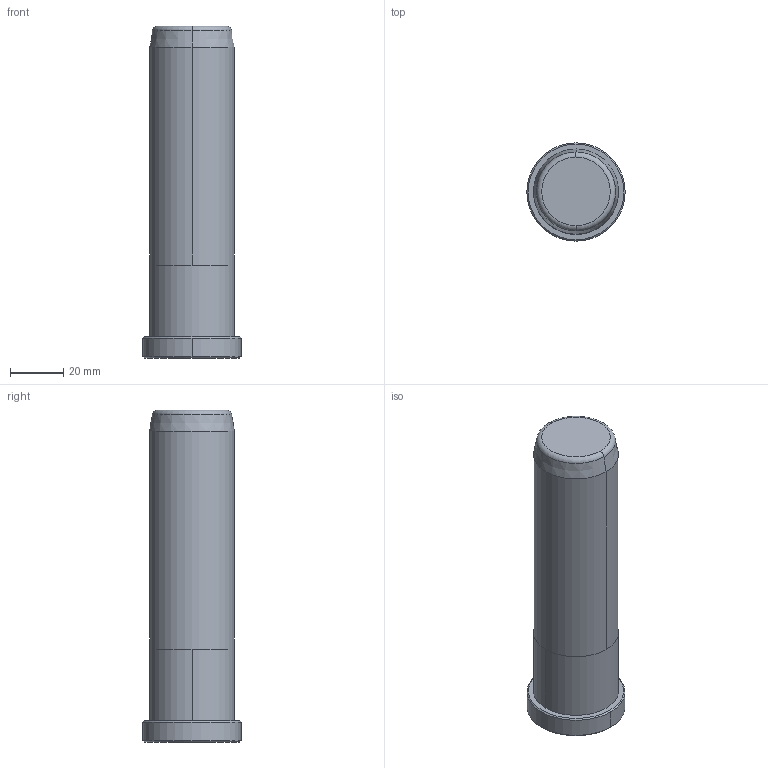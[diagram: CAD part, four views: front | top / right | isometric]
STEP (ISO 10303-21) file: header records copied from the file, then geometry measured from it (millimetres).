
FILE_DESCRIPTION((''),'2;1');
FILE_NAME('B80832125','2018-01-06T',('MANU'),(''),'PRO/ENGINEER BY PARAMETRIC TECHNOLOGY CORPORATION, 2012130','PRO/ENGINEER BY PARAMETRIC TECHNOLOGY CORPORATION, 2012130','');
FILE_SCHEMA(('CONFIG_CONTROL_DESIGN'));
Length unit declared in the file: millimetre
Products named in the file (1): B80832125
Bounding box: 37 x 37 x 125 mm (x, y, z)
Volume: 102095.8 mm3; surface area: 14563.2 mm2
Topology: 1 solids, 1 shells, 18 faces, 34 edges, 20 vertices
Faces by surface type: cone 6, cylinder 6, plane 4, torus 2
Entity records: 494 total; most frequent: DIRECTION 92, CARTESIAN_POINT 72, ORIENTED_EDGE 68, AXIS2_PLACEMENT_3D 40, EDGE_CURVE 34, CIRCLE 22, VERTEX_POINT 20, EDGE_LOOP 20
